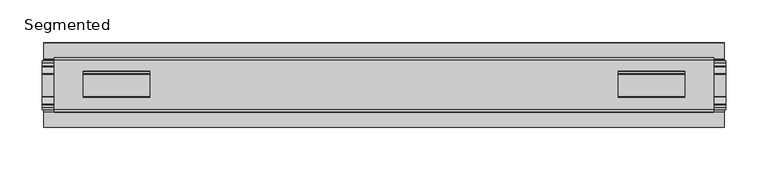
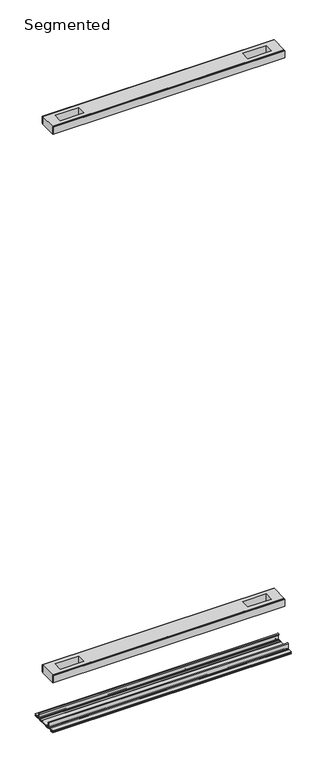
"""IFC4 building model written with IfcOpenShell, lengths in millimetres: proxy geometry, Frame-Teknion-FHCRA-Horizontal_Rail-R2022 : Segmented."""

import ifcopenshell
import ifcopenshell.guid

model = None  # the IFC model being written
_history = None  # IfcOwnerHistory: only IFC2X3 demands one
_inside = {}  # id of a spatial element -> (the spatial element, [elements in it])
_under = {}  # id of a project, library or spatial element -> (it, [spatial elements below it])
_declared = {}  # id of a project -> (the project, [libraries it declares])
_typed = {}  # id of a type object -> (the type object, [elements of that type])
_made_of = {}  # id of a material, layer set ... -> (it, [elements and type objects made of it])


def new_model(schema):
    """Start an empty IFC model of exactly this schema.

    Asked for "IFC4X3", IfcOpenShell would pick the latest addendum, in which some entities
    have other attributes; the version numbers below select the first issue.
    IFC2X3 requires an IfcOwnerHistory on every rooted entity: one is made here for all.
    """
    global model, _history
    if schema == "IFC4X3":
        model = ifcopenshell.file(schema_version=(4, 3, 0, 0))
    else:
        model = ifcopenshell.file(schema=schema)
    _inside.clear()
    _under.clear()
    _declared.clear()
    _typed.clear()
    _made_of.clear()
    _history = None
    if model.schema == "IFC2X3":
        org = make("IfcOrganization", Name="unknown")
        user = make(
            "IfcPersonAndOrganization",
            ThePerson=make("IfcPerson", FamilyName="unknown"),
            TheOrganization=org,
        )
        app = make(
            "IfcApplication",
            ApplicationDeveloper=org,
            Version="unknown",
            ApplicationFullName="unknown",
            ApplicationIdentifier="unknown",
        )
        _history = make(
            "IfcOwnerHistory",
            OwningUser=user,
            OwningApplication=app,
            ChangeAction="ADDED",
            CreationDate=0,
        )
    return model


def make(cls, **values):
    """One entity of the class cls with the attributes given. An attribute that is None is left unset."""
    return model.create_entity(
        cls, **{name: value for name, value in values.items() if value is not None}
    )


def rooted(cls, **values):
    """An entity with a GlobalId (a new one), such as an element, a storey or a relation."""
    return make(cls, GlobalId=ifcopenshell.guid.new(), OwnerHistory=_history, **values)


def si_unit(unit_type, name, prefix=None):
    """IfcSIUnit, for example si_unit("LENGTHUNIT", "METRE", prefix="MILLI")."""
    return make("IfcSIUnit", UnitType=unit_type, Prefix=prefix, Name=name)


def assignment(units):
    """IfcUnitAssignment: the units of a project."""
    return None if units is None else make("IfcUnitAssignment", Units=units)


def point(xyz):
    """IfcCartesianPoint."""
    return None if xyz is None else make("IfcCartesianPoint", Coordinates=xyz)


def direction(xyz):
    """IfcDirection."""
    return None if xyz is None else make("IfcDirection", DirectionRatios=xyz)


def frame(location, z_axis=None, x_axis=None):
    """IfcAxis2Placement3D, a coordinate frame: its origin and axes. An axis left out is left unset."""
    return make(
        "IfcAxis2Placement3D",
        Location=point(location),
        Axis=direction(z_axis),
        RefDirection=direction(x_axis),
    )


def frame_2d(location, x_axis=None):
    """IfcAxis2Placement2D, a coordinate frame in the plane: its origin and x axis."""
    return make(
        "IfcAxis2Placement2D", Location=point(location), RefDirection=direction(x_axis)
    )


def origin():
    """The frame at (0, 0, 0) with its axes left unset."""
    return frame((0.0, 0.0, 0.0))


def place(relative_to, where):
    """IfcLocalPlacement: puts the frame where relative to a parent placement (None: the world)."""
    return make(
        "IfcLocalPlacement", PlacementRelTo=relative_to, RelativePlacement=where
    )


def context(
    kind, dimensions, precision=None, world=None, true_north=None, identifier=None
):
    """IfcGeometricRepresentationContext, for example the 3D "Model" context."""
    return make(
        "IfcGeometricRepresentationContext",
        ContextIdentifier=identifier,
        ContextType=kind,
        CoordinateSpaceDimension=dimensions,
        Precision=precision,
        WorldCoordinateSystem=world,
        TrueNorth=true_north,
    )


def project(units=None, contexts=None):
    """IfcProject with its units and contexts."""
    return rooted(
        "IfcProject",
        Name="project",
        RepresentationContexts=contexts,
        UnitsInContext=assignment(units),
    )


def spatial(cls, under=None, at=None, **own):
    """A site, building, storey or space (cls), placed at a placement, below another one or the project."""
    s = rooted(cls, ObjectPlacement=at, **own)
    if under is not None:
        _under.setdefault(under.id(), (under, []))[1].append(s)
    return s


def polyline(points):
    """IfcPolyline through the points."""
    return make("IfcPolyline", Points=[point(p) for p in points])


def circle_curve(where, radius):
    """IfcCircle in the frame where."""
    return make("IfcCircle", Position=where, Radius=radius)


def trimmed(basis, trim1, trim2, sense, master):
    """IfcTrimmedCurve: the piece of a basis curve between two trims."""
    return make(
        "IfcTrimmedCurve",
        BasisCurve=basis,
        Trim1=trim1,
        Trim2=trim2,
        SenseAgreement=sense,
        MasterRepresentation=master,
    )


def segment(curve, same_sense, transition):
    """IfcCompositeCurveSegment."""
    return make(
        "IfcCompositeCurveSegment",
        Transition=transition,
        SameSense=same_sense,
        ParentCurve=curve,
    )


def composite_curve(segments, self_intersect=None):
    """IfcCompositeCurve: segments joined end to end."""
    return make("IfcCompositeCurve", Segments=segments, SelfIntersect=self_intersect)


def outline(outer, holes=None, kind="AREA"):
    """IfcArbitraryClosedProfileDef: a profile drawn as a closed curve; with holes, ...WithVoids."""
    if holes is None:
        return make("IfcArbitraryClosedProfileDef", ProfileType=kind, OuterCurve=outer)
    return make(
        "IfcArbitraryProfileDefWithVoids",
        ProfileType=kind,
        OuterCurve=outer,
        InnerCurves=holes,
    )


def extrude(swept, where, along, depth):
    """IfcExtrudedAreaSolid: the profile swept, set in the frame where, extruded along a direction by depth."""
    return make(
        "IfcExtrudedAreaSolid",
        SweptArea=swept,
        Position=where,
        ExtrudedDirection=direction(along),
        Depth=depth,
    )


def shape(context_of_items, identifier, shape_type, items):
    """IfcShapeRepresentation: the items that make up one representation, for example the "Body"."""
    return make(
        "IfcShapeRepresentation",
        ContextOfItems=context_of_items,
        RepresentationIdentifier=identifier,
        RepresentationType=shape_type,
        Items=items,
    )


def source(mapping_origin, context_of_items, identifier, shape_type, items):
    """IfcRepresentationMap: a shape defined once, which mapped items show again and again."""
    return make(
        "IfcRepresentationMap",
        MappingOrigin=mapping_origin,
        MappedRepresentation=shape(context_of_items, identifier, shape_type, items),
    )


def transform(
    local_origin,
    x_axis=None,
    y_axis=None,
    z_axis=None,
    scale=None,
    scale2=None,
    scale3=None,
    uniform=True,
):
    """IfcCartesianTransformationOperator3D, or its non-uniform kind. x_axis, y_axis, z_axis: its Axis1, 2, 3."""
    if uniform:
        return make(
            "IfcCartesianTransformationOperator3D",
            Axis1=direction(x_axis),
            Axis2=direction(y_axis),
            LocalOrigin=point(local_origin),
            Scale=scale,
            Axis3=direction(z_axis),
        )
    return make(
        "IfcCartesianTransformationOperator3DnonUniform",
        Axis1=direction(x_axis),
        Axis2=direction(y_axis),
        LocalOrigin=point(local_origin),
        Scale=scale,
        Axis3=direction(z_axis),
        Scale2=scale2,
        Scale3=scale3,
    )


def mapped(mapping_source, mapping_target):
    """IfcMappedItem: shows the shape of a source again, moved by a transform."""
    return make(
        "IfcMappedItem", MappingSource=mapping_source, MappingTarget=mapping_target
    )


def made_of(thing, what):
    """Note that an element or type object is made of a material, layer set ...; save() writes the relation."""
    if what is not None:
        _made_of.setdefault(what.id(), (what, []))[1].append(thing)
    return thing


def element(
    cls,
    number,
    at=None,
    inside=None,
    cuts=None,
    type_object=None,
    material=None,
    context=None,
    identifier="Body",
    shape_type=None,
    held_by="IfcProductDefinitionShape",
    body=None,
    shapes=None,
    **own,
):
    """One element of the class cls, such as IfcWall. Its Tag is "e" and its number.

    at: its placement. inside: the storey or other place that contains it. cuts: it is an
    opening in that element (IfcRelVoidsElement). A single representation is given by context,
    identifier, shape_type and body (its items); several are given by shapes. held_by: the class
    of the entity that holds the representations. save() writes the other relations.
    """
    e = rooted(cls, Tag="e%d" % number, ObjectPlacement=at, **own)
    if body is not None:
        shapes = [shape(context, identifier, shape_type, body)]
    if shapes is not None:
        e.Representation = make(held_by, Representations=shapes)
    if inside is not None:
        _inside.setdefault(inside.id(), (inside, []))[1].append(e)
    if cuts is not None:
        rooted(
            "IfcRelVoidsElement", RelatingBuildingElement=cuts, RelatedOpeningElement=e
        )
    if type_object is not None:
        _typed.setdefault(type_object.id(), (type_object, []))[1].append(e)
    return made_of(e, material)


def aggregate(whole, parts):
    """IfcRelAggregates: a whole, such as a stair, and the parts it consists of."""
    return rooted("IfcRelAggregates", RelatingObject=whole, RelatedObjects=parts)


def save(model, path):
    """Write the relations noted so far, then the file.

    IfcRelAggregates (storeys below a building ...), IfcRelContainedInSpatialStructure (elements
    in a storey), IfcRelDefinesByType, IfcRelAssociatesMaterial and IfcRelDeclares: one each for
    every whole, place, type object, material and project.
    """
    for whole, parts in _under.values():
        aggregate(whole, parts)
    for where, things in _inside.values():
        rooted(
            "IfcRelContainedInSpatialStructure",
            RelatedElements=things,
            RelatingStructure=where,
        )
    for kind, things in _typed.values():
        rooted("IfcRelDefinesByType", RelatedObjects=things, RelatingType=kind)
    for what, things in _made_of.values():
        rooted("IfcRelAssociatesMaterial", RelatedObjects=things, RelatingMaterial=what)
    for by, libraries in _declared.values():
        rooted("IfcRelDeclares", RelatingContext=by, RelatedDefinitions=libraries)
    model.write(path)


def segmented_488f1f61(model_context):
    return source(origin(), model_context, "Body", "SweptSolid", [
        extrude(outline(polyline([(390.4615091, 29.0068005), (-390.4615091, 29.0068005), (-390.4615091, 32.1817997), (390.4615091, 32.1817997), (390.4615091, 29.0068005)])), frame((0.0, 0.0, 2107.0117561), z_axis=(0.0, 0.0, 1.0), x_axis=(1.0, 0.0, 0.0)), (0.0, 0.0, 1.0), 25.3999939),
        extrude(outline(polyline([(390.4615091, -32.1817997), (-390.4615091, -32.1817997), (-390.4615091, -29.0068005), (390.4615091, -29.0068005), (390.4615091, -32.1817997)])), frame((0.0, 0.0, 2107.0117561), z_axis=(0.0, 0.0, 1.0), x_axis=(1.0, 0.0, 0.0)), (0.0, 0.0, 1.0), 25.3999939),
        extrude(outline(polyline([(390.4615091, -29.0068005), (-390.4615091, -29.0068005), (-390.4615091, 29.0068005), (390.4615091, 29.0068005), (390.4615091, -29.0068005)]), holes=[polyline([(356.0444965, -15.1130038), (356.0444965, 15.875003), (276.9996847, 15.875003), (276.9996847, -15.1130038), (356.0444965, -15.1130038)]), polyline([(-356.0444965, -15.1130038), (-276.9996847, -15.1130038), (-276.9996847, 15.875003), (-356.0444965, 15.875003), (-356.0444965, -15.1130038)])]), frame((0.0, 0.0, 2105.5901786), z_axis=(0.0, 0.0, 1.0), x_axis=(1.0, 0.0, 0.0)), (0.0, 0.0, 1.0), 27.9999988),
        extrude(outline(polyline([(390.4615091, 29.0068005), (-390.4615091, 29.0068005), (-390.4615091, 32.1817997), (390.4615091, 32.1817997), (390.4615091, 29.0068005)])), frame((0.0, 0.0, 149.8401622), z_axis=(0.0, 0.0, 1.0), x_axis=(1.0, 0.0, 0.0)), (0.0, 0.0, 1.0), 25.3999939),
        extrude(outline(polyline([(390.4615091, -32.1817997), (-390.4615091, -32.1817997), (-390.4615091, -29.0068005), (390.4615091, -29.0068005), (390.4615091, -32.1817997)])), frame((0.0, 0.0, 149.8401622), z_axis=(0.0, 0.0, 1.0), x_axis=(1.0, 0.0, 0.0)), (0.0, 0.0, 1.0), 25.3999939),
        extrude(outline(polyline([(390.4615091, -29.0068005), (-390.4615091, -29.0068005), (-390.4615091, 29.0068005), (390.4615091, 29.0068005), (390.4615091, -29.0068005)]), holes=[polyline([(356.0444965, -15.1130038), (356.0444965, 15.875003), (276.9996847, 15.875003), (276.9996847, -15.1130038), (356.0444965, -15.1130038)]), polyline([(-356.0444965, -15.1130038), (-276.9996847, -15.1130038), (-276.9996847, 15.875003), (-356.0444965, 15.875003), (-356.0444965, -15.1130038)])]), frame((0.0, 0.0, 148.4185847), z_axis=(0.0, 0.0, 1.0), x_axis=(1.0, 0.0, 0.0)), (0.0, 0.0, 1.0), 27.9999988),
        extrude(outline(composite_curve([segment(trimmed(circle_curve(frame_2d((26.6420561, -7.7516037)), 2.17424), [point((28.8162961, -7.7516037))], [point((26.6420561, -9.9258438))], False, "CARTESIAN"), True, "CONTINUOUS"), segment(polyline([(26.6420561, -9.9258438), (22.3510694, -9.9258438)]), True, "CONTINUOUS"), segment(trimmed(circle_curve(frame_2d((17.7706549, -6.4800016)), 5.7318431), [point((22.3510694, -9.9258438))], [point((13.1902404, -9.9258438))], False, "CARTESIAN"), True, "CONTINUOUS"), segment(polyline([(13.1902404, -9.9258438), (-13.57124, -9.9258438)]), True, "CONTINUOUS"), segment(trimmed(circle_curve(frame_2d((-18.1516545, -6.4800016)), 5.7318431), [point((-13.57124, -9.9258438))], [point((-22.732069, -9.9258438))], False, "CARTESIAN"), True, "CONTINUOUS"), segment(polyline([(-22.732069, -9.9258438), (-27.0230557, -9.9258438)]), True, "CONTINUOUS"), segment(trimmed(circle_curve(frame_2d((-27.0230557, -7.7516037)), 2.17424), [point((-27.0230557, -9.9258438))], [point((-29.1972958, -7.7516037))], False, "CARTESIAN"), True, "CONTINUOUS"), segment(polyline([(-29.1972958, -7.7516037), (-29.1972958, 9.8607558)]), True, "CONTINUOUS"), segment(trimmed(circle_curve(frame_2d((-27.9780978, 9.8607558)), 1.2191979), [point((-29.1972958, 9.8607558))], [point((-26.7588999, 9.8607558))], False, "CARTESIAN"), True, "CONTINUOUS"), segment(polyline([(-26.7588999, 9.8607558), (-26.7588999, 5.9999563), (-28.0390765, 5.9999563), (-28.0390765, -7.7516037)]), True, "CONTINUOUS"), segment(trimmed(circle_curve(frame_2d((-27.0230557, -7.7516037)), 1.0160208), [point((-28.0390765, -7.7516037))], [point((-27.0295728, -8.7676036))], True, "CARTESIAN"), True, "CONTINUOUS"), segment(polyline([(-27.0295728, -8.7676036), (-23.0866222, -8.7676036), (-22.1732605, -8.968753)]), True, "CONTINUOUS"), segment(trimmed(circle_curve(frame_2d((-18.1483018, -6.1259382)), 4.9276657), [point((-22.1732605, -8.968753))], [point((-14.123343, -8.968753))], True, "CARTESIAN"), True, "CONTINUOUS"), segment(polyline([(-14.123343, -8.968753), (-13.2099722, -8.7676036), (12.8289726, -8.7676036), (13.7423434, -8.968753)]), True, "CONTINUOUS"), segment(trimmed(circle_curve(frame_2d((17.7673021, -6.1259382)), 4.9276657), [point((13.7423434, -8.968753))], [point((21.7922609, -8.968753))], True, "CARTESIAN"), True, "CONTINUOUS"), segment(polyline([(21.7922609, -8.968753), (22.7056226, -8.7676036), (26.6485732, -8.7676036)]), True, "CONTINUOUS"), segment(trimmed(circle_curve(frame_2d((26.6420561, -7.7516037)), 1.0160208), [point((26.6485732, -8.7676036))], [point((27.6580769, -7.7516037))], True, "CARTESIAN"), True, "CONTINUOUS"), segment(polyline([(27.6580769, -7.7516037), (27.6580769, 5.9999563), (26.3779003, 5.9999563), (26.3779003, 9.8607558)]), True, "CONTINUOUS"), segment(trimmed(circle_curve(frame_2d((27.5970982, 9.8607558)), 1.2191979), [point((26.3779003, 9.8607558))], [point((28.8162961, 9.8607558))], False, "CARTESIAN"), True, "CONTINUOUS"), segment(polyline([(28.8162961, 9.8607558), (28.8162961, -7.7516037)]), True, "CONTINUOUS")], self_intersect=False)), frame((-404.5204, 0.0, 0.0), z_axis=(1.0, 0.0, 0.0), x_axis=(0.0, 1.0, 0.0)), (0.0, 0.0, 1.0), 809.0408),
        extrude(outline(composite_curve([segment(polyline([(50.2668422, -13.9898438), (39.6557522, -13.9898438)]), True, "CONTINUOUS"), segment(trimmed(circle_curve(frame_2d((39.6557522, -12.4658438)), 1.524), [point((39.6557522, -13.9898438))], [point((38.1317522, -12.4658438))], False, "CARTESIAN"), True, "CONTINUOUS"), segment(polyline([(38.1317522, -12.4658438), (38.1317522, -7.766844), (31.3054974, -7.766844), (31.3054974, -10.0528438)]), True, "CONTINUOUS"), segment(trimmed(circle_curve(frame_2d((29.7814974, -10.0528438)), 1.524), [point((31.3054974, -10.0528438))], [point((29.7814974, -11.5768438))], False, "CARTESIAN"), True, "CONTINUOUS"), segment(polyline([(29.7814974, -11.5768438), (23.2753553, -11.5768438)]), True, "CONTINUOUS"), segment(trimmed(circle_curve(frame_2d((17.7673021, -6.4968436)), 7.4930002), [point((23.2753553, -11.5768438))], [point((12.5094972, -11.8354331))], False, "CARTESIAN"), True, "CONTINUOUS"), segment(polyline([(12.5094972, -11.8354331), (-12.8904968, -11.8354331)]), True, "CONTINUOUS"), segment(trimmed(circle_curve(frame_2d((-18.1483018, -6.4968436)), 7.4930002), [point((-12.8904968, -11.8354331))], [point((-23.6563549, -11.5768438))], False, "CARTESIAN"), True, "CONTINUOUS"), segment(polyline([(-23.6563549, -11.5768438), (-30.1624971, -11.5768438)]), True, "CONTINUOUS"), segment(trimmed(circle_curve(frame_2d((-30.1624971, -10.0528438)), 1.524), [point((-30.1624971, -11.5768438))], [point((-31.686497, -10.0528438))], False, "CARTESIAN"), True, "CONTINUOUS"), segment(polyline([(-31.686497, -10.0528438), (-31.686497, -7.766844), (-38.5127519, -7.766844), (-38.5127519, -12.4658438)]), True, "CONTINUOUS"), segment(trimmed(circle_curve(frame_2d((-40.0367518, -12.4658438)), 1.524), [point((-38.5127519, -12.4658438))], [point((-40.0367518, -13.9898438))], False, "CARTESIAN"), True, "CONTINUOUS"), segment(polyline([(-40.0367518, -13.9898438), (-50.00625, -13.9898438), (-50.00625, -12.3388438), (-40.1637503, -12.3388438), (-40.1637503, -7.766844), (-50.00625, -7.766844), (-50.00625, -6.1158439), (-31.6239218, -6.1158439)]), True, "CONTINUOUS"), segment(trimmed(circle_curve(frame_2d((-31.6864982, -7.7656583)), 1.6510007), [point((-31.6239218, -6.1158439))], [point((-30.0354975, -7.7656583))], False, "CARTESIAN"), True, "CONTINUOUS"), segment(polyline([(-30.0354975, -7.7656583), (-30.0354975, -9.9258438), (-23.486834, -9.9258438)]), True, "CONTINUOUS"), segment(trimmed(circle_curve(frame_2d((-18.1483018, -5.2268471)), 7.1119966), [point((-23.486834, -9.9258438))], [point((-12.8097695, -9.9258438))], True, "CARTESIAN"), True, "CONTINUOUS"), segment(polyline([(-12.8097695, -9.9258438), (12.4287699, -9.9258438)]), True, "CONTINUOUS"), segment(trimmed(circle_curve(frame_2d((17.7673021, -5.2268471)), 7.1119966), [point((12.4287699, -9.9258438))], [point((23.1058344, -9.9258438))], True, "CARTESIAN"), True, "CONTINUOUS"), segment(polyline([(23.1058344, -9.9258438), (29.6544978, -9.9258438), (29.6544978, -7.6398436)]), True, "CONTINUOUS"), segment(trimmed(circle_curve(frame_2d((31.1784975, -7.6398436)), 1.5239997), [point((29.6544978, -7.6398436))], [point((31.1784975, -6.1158439))], False, "CARTESIAN"), True, "CONTINUOUS"), segment(polyline([(31.1784975, -6.1158439), (50.2668422, -6.1158439), (50.2240211, -7.766844), (39.7827507, -7.766844), (39.7827507, -12.3388438), (50.2240211, -12.3388438), (50.2668422, -13.9898438)]), True, "CONTINUOUS")], self_intersect=False)), frame((-402.8694, 0.0, 0.0), z_axis=(1.0, 0.0, 0.0), x_axis=(0.0, 1.0, 0.0)), (0.0, 0.0, 1.0), 805.7388),
    ])


if __name__ == "__main__":
    model = new_model("IFC4")
    model_context = context("Model", 3, world=origin())
    ifc_project = project(units=[si_unit("LENGTHUNIT", "METRE", prefix="MILLI")], contexts=[model_context])
    site = spatial("IfcSite", under=ifc_project)
    building = spatial("IfcBuilding", under=site)
    placement = place(None, origin())
    segmented_shape = segmented_488f1f61(model_context)
    element("IfcBuildingElementProxy", 1, Name="Frame-Teknion-FHCRA-Horizontal_Rail-R2022 : Segmented", ObjectType="Frame-Teknion-FHCRA-Horizontal_Rail-R2022 : Segmented", at=placement, inside=building, context=model_context, shape_type="MappedRepresentation", body=[
        mapped(segmented_shape, transform((0.0, 0.0, 0.0), x_axis=(1.0, 0.0, 0.0), y_axis=(0.0, 1.0, 0.0), z_axis=(0.0, 0.0, 1.0))),
    ])
    save(model, "model.ifc")
